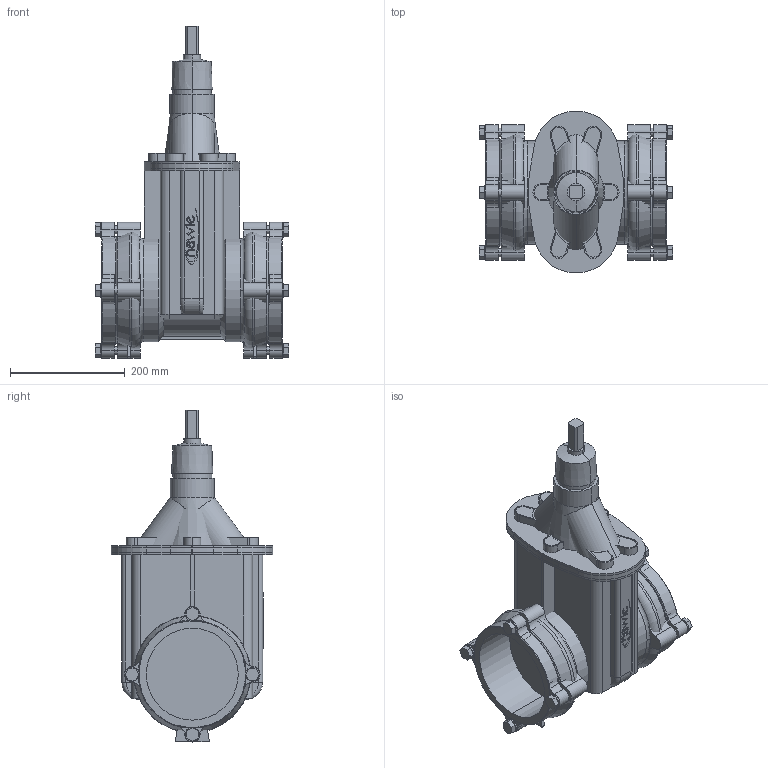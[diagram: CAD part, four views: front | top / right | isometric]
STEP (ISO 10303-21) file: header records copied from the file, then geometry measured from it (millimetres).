
FILE_DESCRIPTION(('STEP AP214'),'1');
FILE_NAME('S:/EK/USER/CAT6/3DHomepage/4040E2/4040E2-PN16-DN150-160.STP','2012-04-24T11:14:25',(' '),(' '),'Spatial InterOp 3D',' ',' ');
FILE_SCHEMA(('automotive_design'));
Length unit declared in the file: millimetre
Products named in the file (93): 3D-Objekt
Bounding box: 337.6 x 281.29 x 578 mm (x, y, z)
Volume: 13997627 mm3; surface area: 1296731.2 mm2
Topology: 93 solids, 93 shells, 747 faces, 1669 edges, 1110 vertices
Faces by surface type: plane 420, cylinder 281, torus 28, cone 14, bspline 4
Entity records: 29118 total; most frequent: DIRECTION 4015, CARTESIAN_POINT 3687, ORIENTED_EDGE 3338, EDGE_CURVE 1669, AXIS2_PLACEMENT_3D 1510, VERTEX_POINT 1110, LINE 995, VECTOR 995
